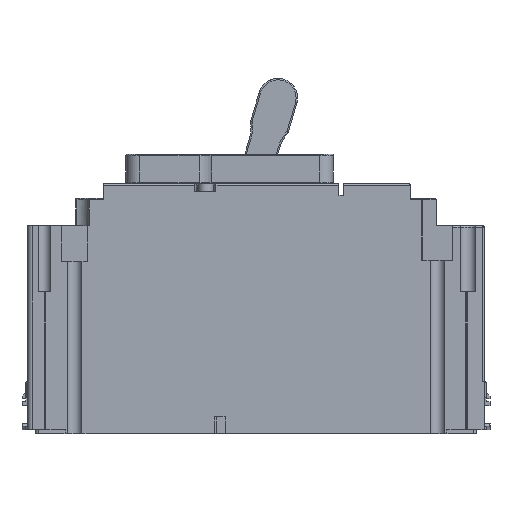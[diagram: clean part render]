
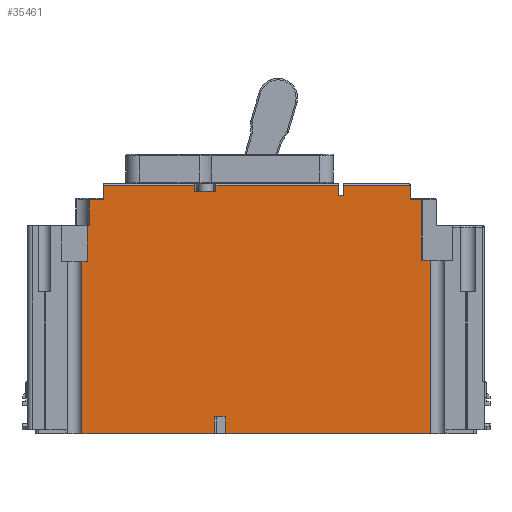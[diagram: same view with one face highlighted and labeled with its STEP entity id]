
A CAD part, left-side view. The second image highlights one B-rep face of the part: STEP entity #35461.
In plain terms, the highlighted planar face has unit normal (-1, 0, 0).
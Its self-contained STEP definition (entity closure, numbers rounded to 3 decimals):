
#170=DIRECTION('',(0.,-1.,0.));
#171=VECTOR('',#170,45.601);
#172=CARTESIAN_POINT('',(-0.2,140.571,0.));
#173=LINE('',#172,#171);
#182=DIRECTION('',(0.,-1.,0.));
#183=VECTOR('',#182,70.679);
#184=CARTESIAN_POINT('',(-0.2,91.27,0.));
#185=LINE('',#184,#183);
#10873=DIRECTION('',(0.,0.,1.));
#10874=VECTOR('',#10873,59.75);
#10875=CARTESIAN_POINT('',(-0.2,20.591,0.));
#10876=LINE('',#10875,#10874);
#10877=DIRECTION('',(0.,1.,0.));
#10878=VECTOR('',#10877,3.004);
#10879=CARTESIAN_POINT('',(-0.2,20.591,59.75));
#10880=LINE('',#10879,#10878);
#10896=DIRECTION('',(0.,0.,1.));
#10897=VECTOR('',#10896,5.8);
#10898=CARTESIAN_POINT('',(-0.2,91.27,0.));
#10899=LINE('',#10898,#10897);
#10900=DIRECTION('',(0.,-1.,0.));
#10901=VECTOR('',#10900,1.851);
#10902=CARTESIAN_POINT('',(-0.2,140.571,59.35));
#10903=LINE('',#10902,#10901);
#10904=DIRECTION('',(0.,0.,1.));
#10905=VECTOR('',#10904,12.3);
#10906=CARTESIAN_POINT('',(-0.2,138.72,59.35));
#10907=LINE('',#10906,#10905);
#10908=DIRECTION('',(0.,-1.,0.));
#10909=VECTOR('',#10908,0.669);
#10910=CARTESIAN_POINT('',(-0.2,138.72,71.65));
#10911=LINE('',#10910,#10909);
#10912=DIRECTION('',(0.,0.,-1.));
#10913=VECTOR('',#10912,2.2);
#10914=CARTESIAN_POINT('',(-0.2,101.638,85.6));
#10915=LINE('',#10914,#10913);
#10916=DIRECTION('',(0.,0.,-1.));
#10917=VECTOR('',#10916,3.5);
#10918=CARTESIAN_POINT('',(-0.2,52.072,85.6));
#10919=LINE('',#10918,#10917);
#10924=DIRECTION('',(0.,1.,0.));
#10925=VECTOR('',#10924,3.8);
#10926=CARTESIAN_POINT('',(-0.2,23.595,80.6));
#10927=LINE('',#10926,#10925);
#10959=DIRECTION('',(0.,0.,1.));
#10960=VECTOR('',#10959,5.);
#10961=CARTESIAN_POINT('',(-0.2,27.395,80.6));
#10962=LINE('',#10961,#10960);
#11216=DIRECTION('',(0.,0.,1.));
#11217=VECTOR('',#11216,20.85);
#11218=CARTESIAN_POINT('',(-0.2,23.595,59.75));
#11219=LINE('',#11218,#11217);
#11309=DIRECTION('',(0.,0.,-1.));
#11310=VECTOR('',#11309,3.5);
#11311=CARTESIAN_POINT('',(-0.2,50.495,85.6));
#11312=LINE('',#11311,#11310);
#11329=DIRECTION('',(0.,1.,0.));
#11330=VECTOR('',#11329,23.1);
#11331=CARTESIAN_POINT('',(-0.2,27.395,85.6));
#11332=LINE('',#11331,#11330);
#11333=DIRECTION('',(0.,1.,0.));
#11334=VECTOR('',#11333,1.577);
#11335=CARTESIAN_POINT('',(-0.2,50.495,82.1));
#11336=LINE('',#11335,#11334);
#11361=DIRECTION('',(0.,1.,0.));
#11362=VECTOR('',#11361,42.33);
#11363=CARTESIAN_POINT('',(-0.2,52.072,85.6));
#11364=LINE('',#11363,#11362);
#11382=DIRECTION('',(0.,0.,-1.));
#11383=VECTOR('',#11382,2.2);
#11384=CARTESIAN_POINT('',(-0.2,94.402,85.6));
#11385=LINE('',#11384,#11383);
#11417=DIRECTION('',(0.,1.,0.));
#11418=VECTOR('',#11417,7.236);
#11419=CARTESIAN_POINT('',(-0.2,94.402,83.4));
#11420=LINE('',#11419,#11418);
#11522=DIRECTION('',(0.,1.,0.));
#11523=VECTOR('',#11522,31.582);
#11524=CARTESIAN_POINT('',(-0.2,101.638,85.6));
#11525=LINE('',#11524,#11523);
#11685=DIRECTION('',(0.,0.,-1.));
#11686=VECTOR('',#11685,5.);
#11687=CARTESIAN_POINT('',(-0.2,133.22,85.6));
#11688=LINE('',#11687,#11686);
#11694=DIRECTION('',(0.,1.,0.));
#11695=VECTOR('',#11694,4.831);
#11696=CARTESIAN_POINT('',(-0.2,133.22,80.6));
#11697=LINE('',#11696,#11695);
#11729=DIRECTION('',(0.,0.,-1.));
#11730=VECTOR('',#11729,8.95);
#11731=CARTESIAN_POINT('',(-0.2,138.051,80.6));
#11732=LINE('',#11731,#11730);
#11768=DIRECTION('',(0.,0.,-1.));
#11769=VECTOR('',#11768,59.35);
#11770=CARTESIAN_POINT('',(-0.2,140.571,59.35));
#11771=LINE('',#11770,#11769);
#13914=DIRECTION('',(0.,-1.,0.));
#13915=VECTOR('',#13914,3.7);
#13916=CARTESIAN_POINT('',(-0.2,94.97,5.8));
#13917=LINE('',#13916,#13915);
#13981=DIRECTION('',(0.,0.,1.));
#13982=VECTOR('',#13981,5.8);
#13983=CARTESIAN_POINT('',(-0.2,94.97,0.));
#13984=LINE('',#13983,#13982);
#16176=CARTESIAN_POINT('',(-0.2,140.571,0.));
#16177=VERTEX_POINT('',#16176);
#16178=CARTESIAN_POINT('',(-0.2,94.97,0.));
#16179=VERTEX_POINT('',#16178);
#16196=CARTESIAN_POINT('',(-0.2,91.27,0.));
#16197=VERTEX_POINT('',#16196);
#16198=CARTESIAN_POINT('',(-0.2,20.591,0.));
#16199=VERTEX_POINT('',#16198);
#19376=CARTESIAN_POINT('',(-0.2,20.591,59.75));
#19378=VERTEX_POINT('',#19376);
#19379=CARTESIAN_POINT('',(-0.2,23.595,59.75));
#19380=VERTEX_POINT('',#19379);
#19387=CARTESIAN_POINT('',(-0.2,23.595,80.6));
#19388=CARTESIAN_POINT('',(-0.2,27.395,80.6));
#19389=VERTEX_POINT('',#19387);
#19390=VERTEX_POINT('',#19388);
#19391=CARTESIAN_POINT('',(-0.2,91.27,5.8));
#19392=VERTEX_POINT('',#19391);
#19393=CARTESIAN_POINT('',(-0.2,94.97,5.8));
#19394=VERTEX_POINT('',#19393);
#19395=CARTESIAN_POINT('',(-0.2,140.571,59.35));
#19396=VERTEX_POINT('',#19395);
#19397=CARTESIAN_POINT('',(-0.2,138.72,59.35));
#19398=VERTEX_POINT('',#19397);
#19399=CARTESIAN_POINT('',(-0.2,138.72,71.65));
#19400=VERTEX_POINT('',#19399);
#19401=CARTESIAN_POINT('',(-0.2,138.051,71.65));
#19402=VERTEX_POINT('',#19401);
#19403=CARTESIAN_POINT('',(-0.2,138.051,80.6));
#19404=VERTEX_POINT('',#19403);
#19405=CARTESIAN_POINT('',(-0.2,133.22,80.6));
#19406=VERTEX_POINT('',#19405);
#19407=CARTESIAN_POINT('',(-0.2,133.22,85.6));
#19408=VERTEX_POINT('',#19407);
#19409=CARTESIAN_POINT('',(-0.2,101.638,85.6));
#19410=VERTEX_POINT('',#19409);
#19411=CARTESIAN_POINT('',(-0.2,101.638,83.4));
#19412=VERTEX_POINT('',#19411);
#19413=CARTESIAN_POINT('',(-0.2,94.402,83.4));
#19414=VERTEX_POINT('',#19413);
#19415=CARTESIAN_POINT('',(-0.2,94.402,85.6));
#19416=VERTEX_POINT('',#19415);
#19417=CARTESIAN_POINT('',(-0.2,52.072,85.6));
#19418=VERTEX_POINT('',#19417);
#19419=CARTESIAN_POINT('',(-0.2,52.072,82.1));
#19420=VERTEX_POINT('',#19419);
#19421=CARTESIAN_POINT('',(-0.2,50.495,82.1));
#19422=VERTEX_POINT('',#19421);
#19423=CARTESIAN_POINT('',(-0.2,50.495,85.6));
#19424=VERTEX_POINT('',#19423);
#19425=CARTESIAN_POINT('',(-0.2,27.395,85.6));
#19426=VERTEX_POINT('',#19425);
#35406=CARTESIAN_POINT('',(-0.2,140.571,0.));
#35407=DIRECTION('',(-1.,0.,0.));
#35408=DIRECTION('',(0.,-1.,0.));
#35409=AXIS2_PLACEMENT_3D('',#35406,#35407,#35408);
#35410=PLANE('',#35409);
#35412=ORIENTED_EDGE('',*,*,#35411,.F.);
#35414=ORIENTED_EDGE('',*,*,#35413,.F.);
#35415=ORIENTED_EDGE('',*,*,#35388,.F.);
#35416=ORIENTED_EDGE('',*,*,#35378,.F.);
#35417=ORIENTED_EDGE('',*,*,#20582,.F.);
#35419=ORIENTED_EDGE('',*,*,#35418,.T.);
#35421=ORIENTED_EDGE('',*,*,#35420,.F.);
#35423=ORIENTED_EDGE('',*,*,#35422,.F.);
#35424=ORIENTED_EDGE('',*,*,#20562,.F.);
#35426=ORIENTED_EDGE('',*,*,#35425,.F.);
#35428=ORIENTED_EDGE('',*,*,#35427,.T.);
#35430=ORIENTED_EDGE('',*,*,#35429,.T.);
#35432=ORIENTED_EDGE('',*,*,#35431,.T.);
#35434=ORIENTED_EDGE('',*,*,#35433,.F.);
#35436=ORIENTED_EDGE('',*,*,#35435,.F.);
#35438=ORIENTED_EDGE('',*,*,#35437,.F.);
#35440=ORIENTED_EDGE('',*,*,#35439,.F.);
#35442=ORIENTED_EDGE('',*,*,#35441,.T.);
#35444=ORIENTED_EDGE('',*,*,#35443,.F.);
#35446=ORIENTED_EDGE('',*,*,#35445,.F.);
#35448=ORIENTED_EDGE('',*,*,#35447,.F.);
#35450=ORIENTED_EDGE('',*,*,#35449,.T.);
#35452=ORIENTED_EDGE('',*,*,#35451,.F.);
#35454=ORIENTED_EDGE('',*,*,#35453,.F.);
#35456=ORIENTED_EDGE('',*,*,#35455,.F.);
#35458=ORIENTED_EDGE('',*,*,#35457,.F.);
#35459=EDGE_LOOP('',(#35412,#35414,#35415,#35416,#35417,#35419,#35421,#35423,
#35424,#35426,#35428,#35430,#35432,#35434,#35436,#35438,#35440,#35442,#35444,
#35446,#35448,#35450,#35452,#35454,#35456,#35458));
#35460=FACE_OUTER_BOUND('',#35459,.F.);
#35461=ADVANCED_FACE('',(#35460),#35410,.T.);
#20562=EDGE_CURVE('',#16177,#16179,#173,.T.);
#20582=EDGE_CURVE('',#16197,#16199,#185,.T.);
#35378=EDGE_CURVE('',#16199,#19378,#10876,.T.);
#35388=EDGE_CURVE('',#19378,#19380,#10880,.T.);
#35411=EDGE_CURVE('',#19389,#19390,#10927,.T.);
#35413=EDGE_CURVE('',#19380,#19389,#11219,.T.);
#35418=EDGE_CURVE('',#16197,#19392,#10899,.T.);
#35420=EDGE_CURVE('',#19394,#19392,#13917,.T.);
#35422=EDGE_CURVE('',#16179,#19394,#13984,.T.);
#35425=EDGE_CURVE('',#19396,#16177,#11771,.T.);
#35427=EDGE_CURVE('',#19396,#19398,#10903,.T.);
#35429=EDGE_CURVE('',#19398,#19400,#10907,.T.);
#35431=EDGE_CURVE('',#19400,#19402,#10911,.T.);
#35433=EDGE_CURVE('',#19404,#19402,#11732,.T.);
#35435=EDGE_CURVE('',#19406,#19404,#11697,.T.);
#35437=EDGE_CURVE('',#19408,#19406,#11688,.T.);
#35439=EDGE_CURVE('',#19410,#19408,#11525,.T.);
#35441=EDGE_CURVE('',#19410,#19412,#10915,.T.);
#35443=EDGE_CURVE('',#19414,#19412,#11420,.T.);
#35445=EDGE_CURVE('',#19416,#19414,#11385,.T.);
#35447=EDGE_CURVE('',#19418,#19416,#11364,.T.);
#35449=EDGE_CURVE('',#19418,#19420,#10919,.T.);
#35451=EDGE_CURVE('',#19422,#19420,#11336,.T.);
#35453=EDGE_CURVE('',#19424,#19422,#11312,.T.);
#35455=EDGE_CURVE('',#19426,#19424,#11332,.T.);
#35457=EDGE_CURVE('',#19390,#19426,#10962,.T.);
